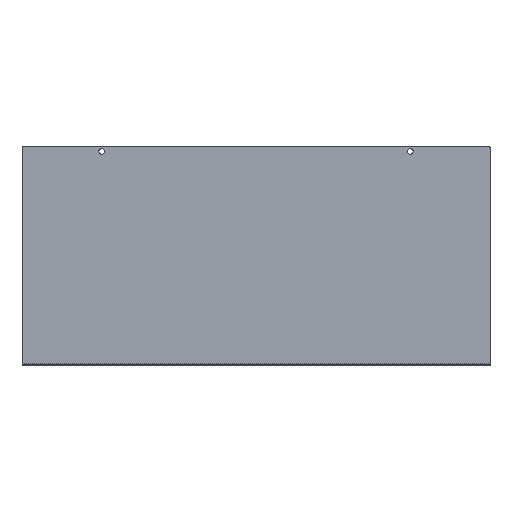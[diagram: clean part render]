
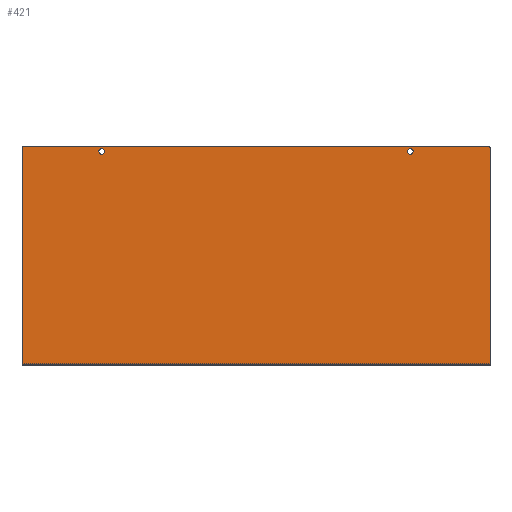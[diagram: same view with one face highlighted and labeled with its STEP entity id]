
A CAD part, top view. The second image highlights one B-rep face of the part: STEP entity #421.
In plain terms, the highlighted planar face has unit normal (0, 0, 1).
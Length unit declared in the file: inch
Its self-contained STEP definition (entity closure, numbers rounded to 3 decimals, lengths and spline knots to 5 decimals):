
#31=FACE_BOUND('',#99,.T.);
#32=FACE_BOUND('',#100,.T.);
#44=PLANE('',#528);
#67=FACE_OUTER_BOUND('',#98,.T.);
#98=EDGE_LOOP('',(#380,#381,#382,#383,#384,#385));
#99=EDGE_LOOP('',(#386));
#100=EDGE_LOOP('',(#387));
#110=LINE('',#711,#143);
#128=LINE('',#760,#161);
#132=LINE('',#775,#165);
#133=LINE('',#777,#166);
#143=VECTOR('',#583,0.3937);
#161=VECTOR('',#629,0.3937);
#165=VECTOR('',#653,0.3937);
#166=VECTOR('',#656,0.3937);
#173=CIRCLE('',#494,0.1405);
#175=CIRCLE('',#497,0.1405);
#177=CIRCLE('',#500,0.062);
#184=CIRCLE('',#515,0.062);
#195=VERTEX_POINT('',#686);
#197=VERTEX_POINT('',#692);
#199=VERTEX_POINT('',#698);
#200=VERTEX_POINT('',#699);
#204=VERTEX_POINT('',#709);
#220=VERTEX_POINT('',#754);
#221=VERTEX_POINT('',#758);
#222=VERTEX_POINT('',#768);
#232=EDGE_CURVE('',#195,#195,#173,.T.);
#235=EDGE_CURVE('',#197,#197,#175,.T.);
#238=EDGE_CURVE('',#199,#200,#177,.T.);
#244=EDGE_CURVE('',#204,#199,#110,.T.);
#265=EDGE_CURVE('',#220,#204,#184,.T.);
#268=EDGE_CURVE('',#221,#220,#128,.T.);
#276=EDGE_CURVE('',#221,#222,#132,.T.);
#277=EDGE_CURVE('',#200,#222,#133,.T.);
#380=ORIENTED_EDGE('',*,*,#238,.F.);
#381=ORIENTED_EDGE('',*,*,#244,.F.);
#382=ORIENTED_EDGE('',*,*,#265,.F.);
#383=ORIENTED_EDGE('',*,*,#268,.F.);
#384=ORIENTED_EDGE('',*,*,#276,.T.);
#385=ORIENTED_EDGE('',*,*,#277,.F.);
#386=ORIENTED_EDGE('',*,*,#232,.T.);
#387=ORIENTED_EDGE('',*,*,#235,.T.);
#421=ADVANCED_FACE('',(#67,#31,#32),#44,.T.);
#494=AXIS2_PLACEMENT_3D('',#687,#559,#560);
#497=AXIS2_PLACEMENT_3D('',#693,#566,#567);
#500=AXIS2_PLACEMENT_3D('',#700,#573,#574);
#515=AXIS2_PLACEMENT_3D('',#755,#623,#624);
#528=AXIS2_PLACEMENT_3D('',#778,#657,#658);
#559=DIRECTION('center_axis',(0.,0.,-1.));
#560=DIRECTION('ref_axis',(-1.,0.,0.));
#566=DIRECTION('center_axis',(0.,0.,-1.));
#567=DIRECTION('ref_axis',(-1.,0.,0.));
#573=DIRECTION('center_axis',(0.,0.,-1.));
#574=DIRECTION('ref_axis',(0.707,0.707,0.));
#583=DIRECTION('',(1.,0.,0.));
#623=DIRECTION('center_axis',(0.,0.,-1.));
#624=DIRECTION('ref_axis',(-0.707,0.707,0.));
#629=DIRECTION('',(0.,1.,0.));
#653=DIRECTION('',(1.,0.,0.));
#656=DIRECTION('',(0.,-1.,0.));
#657=DIRECTION('center_axis',(0.,0.,1.));
#658=DIRECTION('ref_axis',(1.,0.,0.));
#686=CARTESIAN_POINT('',(7.8905,5.25,0.053));
#687=CARTESIAN_POINT('Origin',(7.75,5.25,0.053));
#692=CARTESIAN_POINT('',(-7.6095,5.25,0.053));
#693=CARTESIAN_POINT('Origin',(-7.75,5.25,0.053));
#698=CARTESIAN_POINT('',(11.688,5.5,0.053));
#699=CARTESIAN_POINT('',(11.75,5.438,0.053));
#700=CARTESIAN_POINT('Origin',(11.688,5.438,0.053));
#709=CARTESIAN_POINT('',(-11.688,5.5,0.053));
#711=CARTESIAN_POINT('',(11.75,5.5,0.053));
#754=CARTESIAN_POINT('',(-11.75,5.438,0.053));
#755=CARTESIAN_POINT('Origin',(-11.688,5.438,0.053));
#758=CARTESIAN_POINT('',(-11.75,-5.416,0.053));
#760=CARTESIAN_POINT('',(-11.75,5.5,0.053));
#768=CARTESIAN_POINT('',(11.75,-5.416,0.053));
#775=CARTESIAN_POINT('',(5.875,-5.416,0.053));
#777=CARTESIAN_POINT('',(11.75,-5.5,0.053));
#778=CARTESIAN_POINT('Origin',(0.,0.,0.053));
